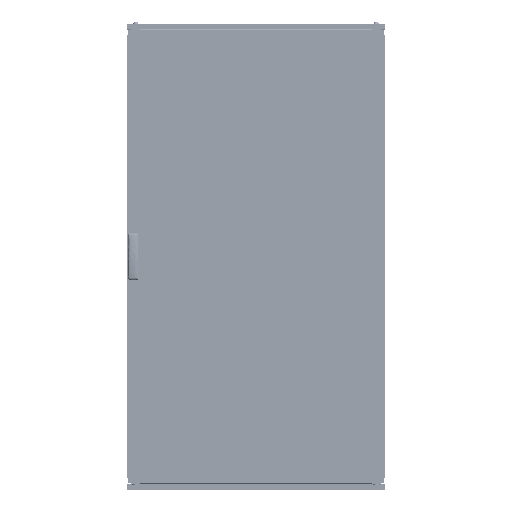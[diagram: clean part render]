
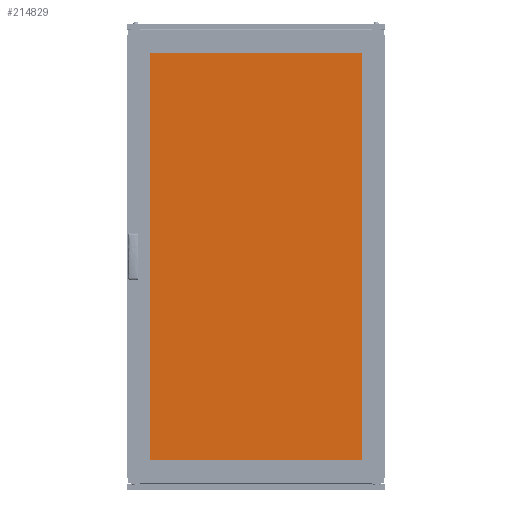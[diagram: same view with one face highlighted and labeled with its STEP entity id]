
A CAD part, top view. The second image highlights one B-rep face of the part: STEP entity #214829.
In plain terms, the highlighted planar face has unit normal (0, 0, 1).
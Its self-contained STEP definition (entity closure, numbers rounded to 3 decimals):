
#2696 = CARTESIAN_POINT ( 'NONE',  ( 430., 810., 5. ) ) ;
#8674 = PLANE ( 'NONE',  #167558 ) ;
#13120 = ORIENTED_EDGE ( 'NONE', *, *, #55207, .T. ) ;
#15717 = VERTEX_POINT ( 'NONE', #2696 ) ;
#26228 = DIRECTION ( 'NONE',  ( -1., 0., 0. ) ) ;
#27637 = CARTESIAN_POINT ( 'NONE',  ( -430., -810., 5. ) ) ;
#34041 = VERTEX_POINT ( 'NONE', #190891 ) ;
#43644 = EDGE_LOOP ( 'NONE', ( #94689, #79666, #223583, #13120 ) ) ;
#43782 = FACE_OUTER_BOUND ( 'NONE', #43644, .T. ) ;
#51981 = VERTEX_POINT ( 'NONE', #85001 ) ;
#54485 = VECTOR ( 'NONE', #185768, 1000. ) ;
#55207 = EDGE_CURVE ( 'NONE', #34041, #154609, #187887, .T. ) ;
#59367 = VECTOR ( 'NONE', #131759, 1000. ) ;
#79666 = ORIENTED_EDGE ( 'NONE', *, *, #173070, .T. ) ;
#85001 = CARTESIAN_POINT ( 'NONE',  ( -430., 810., 5. ) ) ;
#94689 = ORIENTED_EDGE ( 'NONE', *, *, #120613, .T. ) ;
#99498 = EDGE_CURVE ( 'NONE', #51981, #34041, #179295, .T. ) ;
#113064 = CARTESIAN_POINT ( 'NONE',  ( 430., -810., 5. ) ) ;
#120613 = EDGE_CURVE ( 'NONE', #154609, #15717, #183210, .T. ) ;
#121209 = VECTOR ( 'NONE', #203145, 1000. ) ;
#131759 = DIRECTION ( 'NONE',  ( 0., 1., 0. ) ) ;
#149575 = CARTESIAN_POINT ( 'NONE',  ( -430., 810., 5. ) ) ;
#153750 = DIRECTION ( 'NONE',  ( 0., 0., -1. ) ) ;
#154609 = VERTEX_POINT ( 'NONE', #172050 ) ;
#163614 = LINE ( 'NONE', #149575, #54485 ) ;
#166727 = VECTOR ( 'NONE', #212061, 1000. ) ;
#167558 = AXIS2_PLACEMENT_3D ( 'NONE', #189892, #153750, #26228 ) ;
#172050 = CARTESIAN_POINT ( 'NONE',  ( 430., -810., 5. ) ) ;
#173070 = EDGE_CURVE ( 'NONE', #15717, #51981, #163614, .T. ) ;
#179295 = LINE ( 'NONE', #215513, #166727 ) ;
#183210 = LINE ( 'NONE', #113064, #59367 ) ;
#185768 = DIRECTION ( 'NONE',  ( -1., 0., 0. ) ) ;
#187887 = LINE ( 'NONE', #27637, #121209 ) ;
#189892 = CARTESIAN_POINT ( 'NONE',  ( 0., 0., 5. ) ) ;
#190891 = CARTESIAN_POINT ( 'NONE',  ( -430., -810., 5. ) ) ;
#203145 = DIRECTION ( 'NONE',  ( 1., 0., 0. ) ) ;
#212061 = DIRECTION ( 'NONE',  ( 0., -1., 0. ) ) ;
#214829 = ADVANCED_FACE ( 'NONE', ( #43782 ), #8674, .F. ) ;
#215513 = CARTESIAN_POINT ( 'NONE',  ( -430., -810., 5. ) ) ;
#223583 = ORIENTED_EDGE ( 'NONE', *, *, #99498, .T. ) ;
